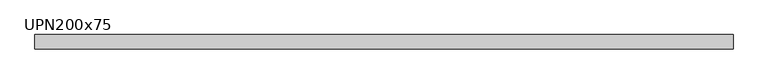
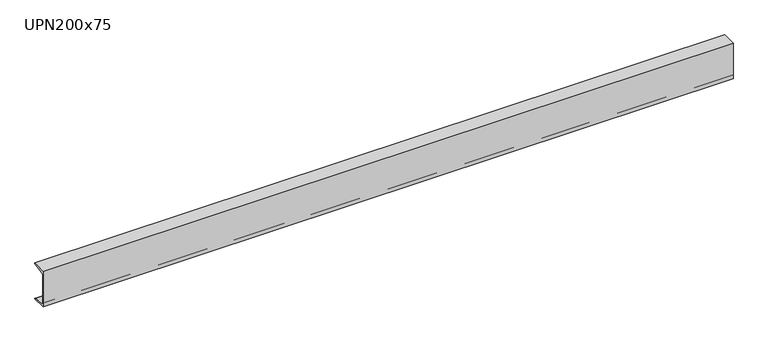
"""IFC4 building model written with IfcOpenShell, lengths in millimetres: beam geometry, M_MC Shapes : UPN200x75."""

import ifcopenshell
import ifcopenshell.guid

model = None  # the IFC model being written
_history = None  # IfcOwnerHistory: only IFC2X3 demands one
_inside = {}  # id of a spatial element -> (the spatial element, [elements in it])
_under = {}  # id of a project, library or spatial element -> (it, [spatial elements below it])
_declared = {}  # id of a project -> (the project, [libraries it declares])
_typed = {}  # id of a type object -> (the type object, [elements of that type])
_made_of = {}  # id of a material, layer set ... -> (it, [elements and type objects made of it])


def new_model(schema):
    """Start an empty IFC model of exactly this schema.

    Asked for "IFC4X3", IfcOpenShell would pick the latest addendum, in which some entities
    have other attributes; the version numbers below select the first issue.
    IFC2X3 requires an IfcOwnerHistory on every rooted entity: one is made here for all.
    """
    global model, _history
    if schema == "IFC4X3":
        model = ifcopenshell.file(schema_version=(4, 3, 0, 0))
    else:
        model = ifcopenshell.file(schema=schema)
    _inside.clear()
    _under.clear()
    _declared.clear()
    _typed.clear()
    _made_of.clear()
    _history = None
    if model.schema == "IFC2X3":
        org = make("IfcOrganization", Name="unknown")
        user = make(
            "IfcPersonAndOrganization",
            ThePerson=make("IfcPerson", FamilyName="unknown"),
            TheOrganization=org,
        )
        app = make(
            "IfcApplication",
            ApplicationDeveloper=org,
            Version="unknown",
            ApplicationFullName="unknown",
            ApplicationIdentifier="unknown",
        )
        _history = make(
            "IfcOwnerHistory",
            OwningUser=user,
            OwningApplication=app,
            ChangeAction="ADDED",
            CreationDate=0,
        )
    return model


def make(cls, **values):
    """One entity of the class cls with the attributes given. An attribute that is None is left unset."""
    return model.create_entity(
        cls, **{name: value for name, value in values.items() if value is not None}
    )


def rooted(cls, **values):
    """An entity with a GlobalId (a new one), such as an element, a storey or a relation."""
    return make(cls, GlobalId=ifcopenshell.guid.new(), OwnerHistory=_history, **values)


def si_unit(unit_type, name, prefix=None):
    """IfcSIUnit, for example si_unit("LENGTHUNIT", "METRE", prefix="MILLI")."""
    return make("IfcSIUnit", UnitType=unit_type, Prefix=prefix, Name=name)


def assignment(units):
    """IfcUnitAssignment: the units of a project."""
    return None if units is None else make("IfcUnitAssignment", Units=units)


def point(xyz):
    """IfcCartesianPoint."""
    return None if xyz is None else make("IfcCartesianPoint", Coordinates=xyz)


def direction(xyz):
    """IfcDirection."""
    return None if xyz is None else make("IfcDirection", DirectionRatios=xyz)


def frame(location, z_axis=None, x_axis=None):
    """IfcAxis2Placement3D, a coordinate frame: its origin and axes. An axis left out is left unset."""
    return make(
        "IfcAxis2Placement3D",
        Location=point(location),
        Axis=direction(z_axis),
        RefDirection=direction(x_axis),
    )


def frame_2d(location, x_axis=None):
    """IfcAxis2Placement2D, a coordinate frame in the plane: its origin and x axis."""
    return make(
        "IfcAxis2Placement2D", Location=point(location), RefDirection=direction(x_axis)
    )


def origin():
    """The frame at (0, 0, 0) with its axes left unset."""
    return frame((0.0, 0.0, 0.0))


def place(relative_to, where):
    """IfcLocalPlacement: puts the frame where relative to a parent placement (None: the world)."""
    return make(
        "IfcLocalPlacement", PlacementRelTo=relative_to, RelativePlacement=where
    )


def context(
    kind, dimensions, precision=None, world=None, true_north=None, identifier=None
):
    """IfcGeometricRepresentationContext, for example the 3D "Model" context."""
    return make(
        "IfcGeometricRepresentationContext",
        ContextIdentifier=identifier,
        ContextType=kind,
        CoordinateSpaceDimension=dimensions,
        Precision=precision,
        WorldCoordinateSystem=world,
        TrueNorth=true_north,
    )


def project(units=None, contexts=None):
    """IfcProject with its units and contexts."""
    return rooted(
        "IfcProject",
        Name="project",
        RepresentationContexts=contexts,
        UnitsInContext=assignment(units),
    )


def spatial(cls, under=None, at=None, **own):
    """A site, building, storey or space (cls), placed at a placement, below another one or the project."""
    s = rooted(cls, ObjectPlacement=at, **own)
    if under is not None:
        _under.setdefault(under.id(), (under, []))[1].append(s)
    return s


def polyline(points):
    """IfcPolyline through the points."""
    return make("IfcPolyline", Points=[point(p) for p in points])


def circle_curve(where, radius):
    """IfcCircle in the frame where."""
    return make("IfcCircle", Position=where, Radius=radius)


def trimmed(basis, trim1, trim2, sense, master):
    """IfcTrimmedCurve: the piece of a basis curve between two trims."""
    return make(
        "IfcTrimmedCurve",
        BasisCurve=basis,
        Trim1=trim1,
        Trim2=trim2,
        SenseAgreement=sense,
        MasterRepresentation=master,
    )


def segment(curve, same_sense, transition):
    """IfcCompositeCurveSegment."""
    return make(
        "IfcCompositeCurveSegment",
        Transition=transition,
        SameSense=same_sense,
        ParentCurve=curve,
    )


def composite_curve(segments, self_intersect=None):
    """IfcCompositeCurve: segments joined end to end."""
    return make("IfcCompositeCurve", Segments=segments, SelfIntersect=self_intersect)


def outline(outer, holes=None, kind="AREA"):
    """IfcArbitraryClosedProfileDef: a profile drawn as a closed curve; with holes, ...WithVoids."""
    if holes is None:
        return make("IfcArbitraryClosedProfileDef", ProfileType=kind, OuterCurve=outer)
    return make(
        "IfcArbitraryProfileDefWithVoids",
        ProfileType=kind,
        OuterCurve=outer,
        InnerCurves=holes,
    )


def extrude(swept, where, along, depth):
    """IfcExtrudedAreaSolid: the profile swept, set in the frame where, extruded along a direction by depth."""
    return make(
        "IfcExtrudedAreaSolid",
        SweptArea=swept,
        Position=where,
        ExtrudedDirection=direction(along),
        Depth=depth,
    )


def shape(context_of_items, identifier, shape_type, items):
    """IfcShapeRepresentation: the items that make up one representation, for example the "Body"."""
    return make(
        "IfcShapeRepresentation",
        ContextOfItems=context_of_items,
        RepresentationIdentifier=identifier,
        RepresentationType=shape_type,
        Items=items,
    )


def source(mapping_origin, context_of_items, identifier, shape_type, items):
    """IfcRepresentationMap: a shape defined once, which mapped items show again and again."""
    return make(
        "IfcRepresentationMap",
        MappingOrigin=mapping_origin,
        MappedRepresentation=shape(context_of_items, identifier, shape_type, items),
    )


def transform(
    local_origin,
    x_axis=None,
    y_axis=None,
    z_axis=None,
    scale=None,
    scale2=None,
    scale3=None,
    uniform=True,
):
    """IfcCartesianTransformationOperator3D, or its non-uniform kind. x_axis, y_axis, z_axis: its Axis1, 2, 3."""
    if uniform:
        return make(
            "IfcCartesianTransformationOperator3D",
            Axis1=direction(x_axis),
            Axis2=direction(y_axis),
            LocalOrigin=point(local_origin),
            Scale=scale,
            Axis3=direction(z_axis),
        )
    return make(
        "IfcCartesianTransformationOperator3DnonUniform",
        Axis1=direction(x_axis),
        Axis2=direction(y_axis),
        LocalOrigin=point(local_origin),
        Scale=scale,
        Axis3=direction(z_axis),
        Scale2=scale2,
        Scale3=scale3,
    )


def mapped(mapping_source, mapping_target):
    """IfcMappedItem: shows the shape of a source again, moved by a transform."""
    return make(
        "IfcMappedItem", MappingSource=mapping_source, MappingTarget=mapping_target
    )


def made_of(thing, what):
    """Note that an element or type object is made of a material, layer set ...; save() writes the relation."""
    if what is not None:
        _made_of.setdefault(what.id(), (what, []))[1].append(thing)
    return thing


def element(
    cls,
    number,
    at=None,
    inside=None,
    cuts=None,
    type_object=None,
    material=None,
    context=None,
    identifier="Body",
    shape_type=None,
    held_by="IfcProductDefinitionShape",
    body=None,
    shapes=None,
    **own,
):
    """One element of the class cls, such as IfcWall. Its Tag is "e" and its number.

    at: its placement. inside: the storey or other place that contains it. cuts: it is an
    opening in that element (IfcRelVoidsElement). A single representation is given by context,
    identifier, shape_type and body (its items); several are given by shapes. held_by: the class
    of the entity that holds the representations. save() writes the other relations.
    """
    e = rooted(cls, Tag="e%d" % number, ObjectPlacement=at, **own)
    if body is not None:
        shapes = [shape(context, identifier, shape_type, body)]
    if shapes is not None:
        e.Representation = make(held_by, Representations=shapes)
    if inside is not None:
        _inside.setdefault(inside.id(), (inside, []))[1].append(e)
    if cuts is not None:
        rooted(
            "IfcRelVoidsElement", RelatingBuildingElement=cuts, RelatedOpeningElement=e
        )
    if type_object is not None:
        _typed.setdefault(type_object.id(), (type_object, []))[1].append(e)
    return made_of(e, material)


def aggregate(whole, parts):
    """IfcRelAggregates: a whole, such as a stair, and the parts it consists of."""
    return rooted("IfcRelAggregates", RelatingObject=whole, RelatedObjects=parts)


def save(model, path):
    """Write the relations noted so far, then the file.

    IfcRelAggregates (storeys below a building ...), IfcRelContainedInSpatialStructure (elements
    in a storey), IfcRelDefinesByType, IfcRelAssociatesMaterial and IfcRelDeclares: one each for
    every whole, place, type object, material and project.
    """
    for whole, parts in _under.values():
        aggregate(whole, parts)
    for where, things in _inside.values():
        rooted(
            "IfcRelContainedInSpatialStructure",
            RelatedElements=things,
            RelatingStructure=where,
        )
    for kind, things in _typed.values():
        rooted("IfcRelDefinesByType", RelatedObjects=things, RelatingType=kind)
    for what, things in _made_of.values():
        rooted("IfcRelAssociatesMaterial", RelatedObjects=things, RelatingMaterial=what)
    for by, libraries in _declared.values():
        rooted("IfcRelDeclares", RelatingContext=by, RelatedDefinitions=libraries)
    model.write(path)


def upn200x75_7b6a578c(model_context):
    return source(origin(), model_context, "Body", "SweptSolid", [
        extrude(outline(composite_curve([segment(polyline([(-10.9, 100.0), (64.1, 100.0), (64.1, 99.0253247)]), True, "CONTINUOUS"), segment(trimmed(circle_curve(frame_2d((60.15, 99.0253247)), 3.95), [point((64.1, 99.0253247))], [point((60.7993773, 95.1290689))], False, "CARTESIAN"), True, "CONTINUOUS"), segment(polyline([(60.7993773, 95.1290689), (0.2512455, 85.0376935)]), True, "CONTINUOUS"), segment(trimmed(circle_curve(frame_2d((1.55, 77.2451819)), 7.9), [point((0.2512455, 85.0376935))], [point((-6.35, 77.2451819))], True, "CARTESIAN"), True, "CONTINUOUS"), segment(polyline([(-6.35, 77.2451819), (-6.35, -77.2451819)]), True, "CONTINUOUS"), segment(trimmed(circle_curve(frame_2d((1.55, -77.2451819)), 7.9), [point((-6.35, -77.2451819))], [point((0.2512455, -85.0376935))], True, "CARTESIAN"), True, "CONTINUOUS"), segment(polyline([(0.2512455, -85.0376935), (60.7993773, -95.1290689)]), True, "CONTINUOUS"), segment(trimmed(circle_curve(frame_2d((60.15, -99.0253247)), 3.95), [point((60.7993773, -95.1290689))], [point((64.1, -99.0253247))], False, "CARTESIAN"), True, "CONTINUOUS"), segment(polyline([(64.1, -99.0253247), (64.1, -100.0), (-10.9, -100.0), (-10.9, 100.0)]), True, "CONTINUOUS")], self_intersect=False)), frame((-1816.85, 0.0, 0.0), z_axis=(1.0, 0.0, 0.0), x_axis=(0.0, 1.0, 0.0)), (0.0, 0.0, 1.0), 3633.7),
    ])


if __name__ == "__main__":
    model = new_model("IFC4")
    model_context = context("Model", 3, world=origin())
    ifc_project = project(units=[si_unit("LENGTHUNIT", "METRE", prefix="MILLI")], contexts=[model_context])
    site = spatial("IfcSite", under=ifc_project)
    building = spatial("IfcBuilding", under=site)
    placement = place(None, origin())
    upn200x75_shape = upn200x75_7b6a578c(model_context)
    element("IfcBeam", 1, ObjectType="M_MC Shapes : UPN200x75", at=placement, inside=building, context=model_context, shape_type="MappedRepresentation", body=[
        mapped(upn200x75_shape, transform((0.0, 0.0, 0.0), x_axis=(1.0, 0.0, 0.0), y_axis=(0.0, 1.0, 0.0), z_axis=(0.0, 0.0, 1.0))),
    ])
    save(model, "model.ifc")
